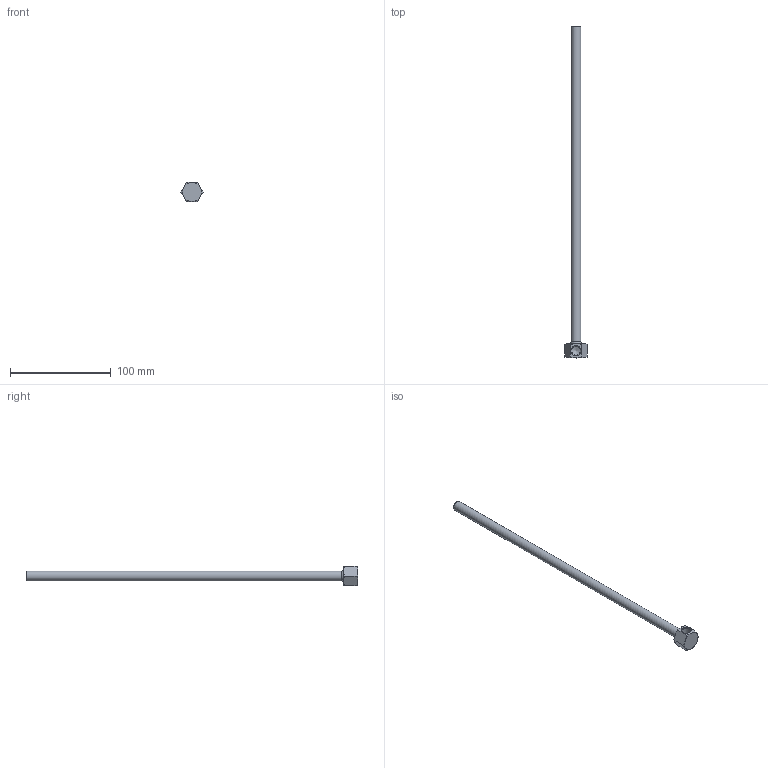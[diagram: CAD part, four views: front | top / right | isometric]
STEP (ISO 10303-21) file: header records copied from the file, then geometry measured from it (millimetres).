
FILE_DESCRIPTION(/* description */ (''),/* implementation_level */ '2;1');
FILE_NAME(/* name */ 'C:/Users/drich/Desktop/18B-13 v1.step',/* time_stamp */ '2019-12-29T15:21:37-06:00',/* author */ (''),/* organization */ (''),/* preprocessor_version */ 'ST-DEVELOPER v18',/* originating_system */ 'Autodesk Translation Framework v8.12.0.6',/* authorisation */ '');
FILE_SCHEMA (('AUTOMOTIVE_DESIGN { 1 0 10303 214 3 1 1 }'));
Length unit declared in the file: inch
Products named in the file (1): 18B-13
Bounding box: 22 x 330.2 x 19.05 mm (x, y, z)
Volume: 16550.3 mm3; surface area: 17694.7 mm2
Topology: 1 solids, 1 shells, 19 faces, 48 edges, 31 vertices
Faces by surface type: plane 9, cone 6, cylinder 3, torus 1
Full cylindrical faces by diameter (mm): 6.35 x1, 8.707 x1, 9.621 x1
Entity records: 633 total; most frequent: CARTESIAN_POINT 159, ORIENTED_EDGE 94, DIRECTION 89, EDGE_CURVE 47, AXIS2_PLACEMENT_3D 37, VERTEX_POINT 31, EDGE_LOOP 22, FACE_OUTER_BOUND 19
